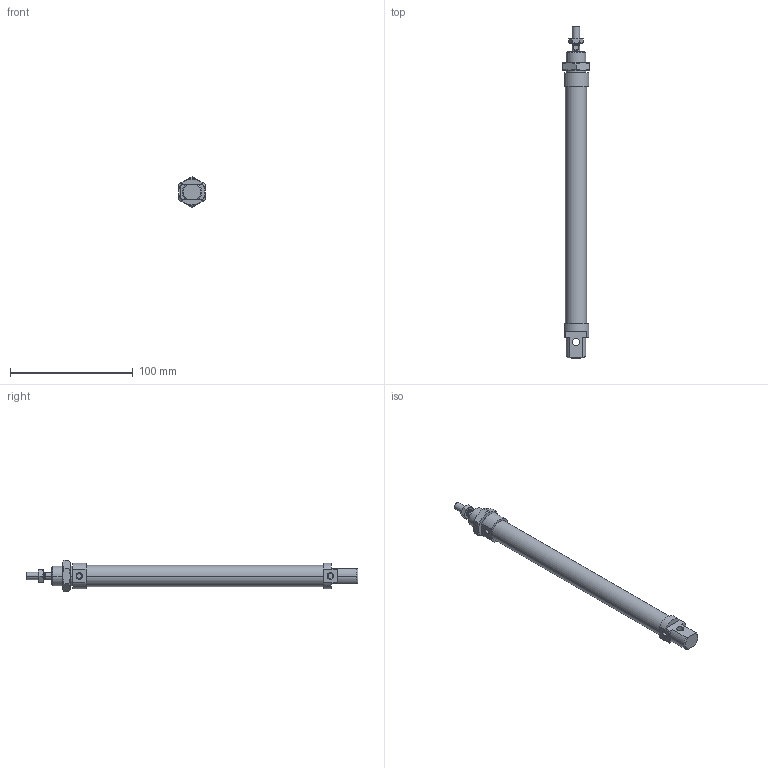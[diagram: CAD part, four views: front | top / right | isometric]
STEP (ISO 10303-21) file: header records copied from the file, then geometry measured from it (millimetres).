
FILE_DESCRIPTION((''),'2;1');
FILE_NAME('I:\DOC-EDP\Lib-3d\1200\CILINDRI\1280\1280_16_0160.stp','2003-04-07T15:05:10',('maffial1'),(''),'Autodesk Inventor (R) 6.0','Autodesk Inventor (R) 6.0','');
FILE_SCHEMA(('AUTOMOTIVE_DESIGN { 1 0 10303 214 1 1 1 1 }'));
Length unit declared in the file: millimetre
Products named in the file (5): 1280_16_0160; S1280_16_160; 1200_16_05; 1200_16_06; C1280_16_160
Assembly tree (4 placements, depth 2):
  1280_16_0160
    S1280_16_160
    1200_16_05
    1200_16_06
    C1280_16_160
Bounding box: 22 x 271 x 25.4 mm (x, y, z)
Volume: 60037.2 mm3; surface area: 23724.3 mm2
Topology: 4 solids, 4 shells, 121 faces, 268 edges, 162 vertices
Faces by surface type: cone 40, plane 39, cylinder 22, bspline 20
Entity records: 3653 total; most frequent: CARTESIAN_POINT 976, DIRECTION 556, ORIENTED_EDGE 536, EDGE_CURVE 268, AXIS2_PLACEMENT_3D 230, VERTEX_POINT 162, EDGE_LOOP 134, FACE_OUTER_BOUND 121
